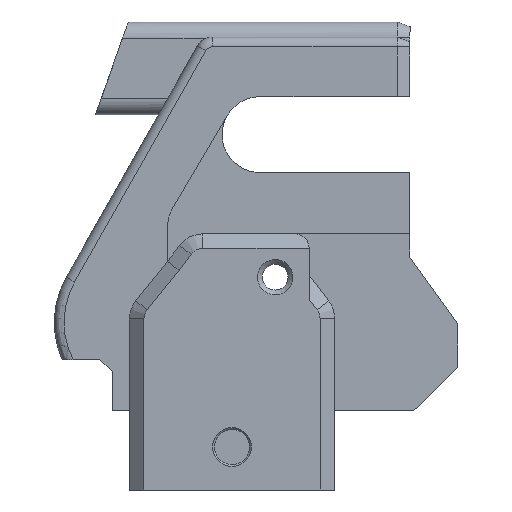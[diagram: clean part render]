
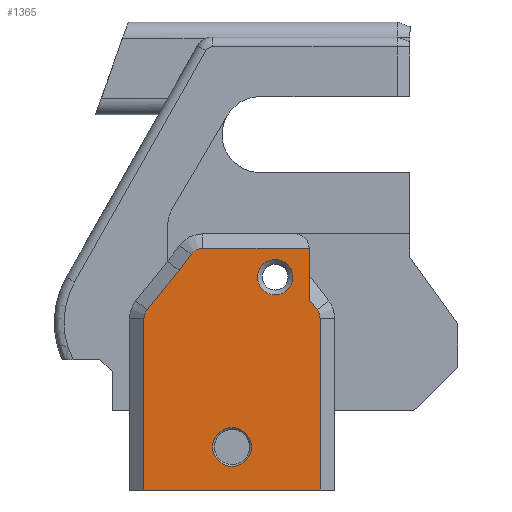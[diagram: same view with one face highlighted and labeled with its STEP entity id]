
A CAD part, left-side view. The second image highlights one B-rep face of the part: STEP entity #1365.
In plain terms, the highlighted planar face has unit normal (-1, 0, 0).
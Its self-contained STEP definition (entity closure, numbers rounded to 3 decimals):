
#660=CARTESIAN_POINT('',(-13.,246.445,52.473));
#661=VERTEX_POINT('',#660);
#668=CARTESIAN_POINT('',(-13.,246.445,47.255));
#669=VERTEX_POINT('',#668);
#670=CARTESIAN_POINT('',(-13.,246.445,52.473));
#671=DIRECTION('',(0.,0.,-1.));
#672=VECTOR('',#671,5.217);
#673=LINE('',#670,#672);
#674=EDGE_CURVE('',#661,#669,#673,.T.);
#974=CARTESIAN_POINT('',(-13.,263.448,27.616));
#975=VERTEX_POINT('',#974);
#992=CARTESIAN_POINT('',(-13.,245.326,27.616));
#993=VERTEX_POINT('',#992);
#1000=CARTESIAN_POINT('',(-13.,263.448,27.616));
#1001=DIRECTION('',(0.,-1.,-0.));
#1002=VECTOR('',#1001,18.122);
#1003=LINE('',#1000,#1002);
#1004=EDGE_CURVE('',#975,#993,#1003,.T.);
#1263=CARTESIAN_POINT('',(-13.,0.,0.));
#1264=DIRECTION('',(-1.,0.,0.));
#1265=DIRECTION('',(0.,1.,0.));
#1266=AXIS2_PLACEMENT_3D('',#1263,#1264,#1265);
#1267=PLANE('',#1266);
#1268=CARTESIAN_POINT('',(-13.,254.387,34.04));
#1269=VERTEX_POINT('',#1268);
#1270=CARTESIAN_POINT('',(-13.,254.387,32.04));
#1271=DIRECTION('',(-1.,0.,0.));
#1272=DIRECTION('',(0.,0.,1.));
#1273=AXIS2_PLACEMENT_3D('',#1270,#1271,#1272);
#1274=CIRCLE('',#1273,2.);
#1275=EDGE_CURVE('',#1269,#1269,#1274,.T.);
#1276=ORIENTED_EDGE('',*,*,#1275,.F.);
#1277=EDGE_LOOP('',(#1276));
#1278=FACE_BOUND('',#1277,.T.);
#1279=CARTESIAN_POINT('',(-13.,249.948,51.34));
#1280=VERTEX_POINT('',#1279);
#1281=CARTESIAN_POINT('',(-13.,249.948,49.515));
#1282=DIRECTION('',(1.,-0.,-0.));
#1283=DIRECTION('',(0.,0.,1.));
#1284=AXIS2_PLACEMENT_3D('',#1281,#1282,#1283);
#1285=CIRCLE('',#1284,1.825);
#1286=EDGE_CURVE('',#1280,#1280,#1285,.T.);
#1287=ORIENTED_EDGE('',*,*,#1286,.T.);
#1288=EDGE_LOOP('',(#1287));
#1289=FACE_BOUND('',#1288,.T.);
#1290=CARTESIAN_POINT('',(-13.,245.628,46.171));
#1291=VERTEX_POINT('',#1290);
#1292=CARTESIAN_POINT('',(-13.,245.628,46.171));
#1293=DIRECTION('',(0.,0.602,0.799));
#1294=VECTOR('',#1293,1.358);
#1295=LINE('',#1292,#1294);
#1296=EDGE_CURVE('',#1291,#669,#1295,.T.);
#1297=ORIENTED_EDGE('',*,*,#1296,.T.);
#1298=ORIENTED_EDGE('',*,*,#674,.F.);
#1299=CARTESIAN_POINT('',(-13.,257.395,52.473));
#1300=VERTEX_POINT('',#1299);
#1301=CARTESIAN_POINT('',(-13.,246.445,52.473));
#1302=DIRECTION('',(0.,1.,0.));
#1303=VECTOR('',#1302,10.95);
#1304=LINE('',#1301,#1303);
#1305=EDGE_CURVE('',#661,#1300,#1304,.T.);
#1306=ORIENTED_EDGE('',*,*,#1305,.T.);
#1307=CARTESIAN_POINT('',(-13.,258.592,51.876));
#1308=VERTEX_POINT('',#1307);
#1309=CARTESIAN_POINT('',(-13.,257.395,50.973));
#1310=DIRECTION('',(-1.,0.,0.));
#1311=DIRECTION('',(0.,0.,1.));
#1312=AXIS2_PLACEMENT_3D('',#1309,#1310,#1311);
#1313=CIRCLE('',#1312,1.5);
#1314=EDGE_CURVE('',#1300,#1308,#1313,.T.);
#1315=ORIENTED_EDGE('',*,*,#1314,.T.);
#1316=CARTESIAN_POINT('',(-13.,259.836,50.225));
#1317=VERTEX_POINT('',#1316);
#1318=CARTESIAN_POINT('',(-13.,258.592,51.876));
#1319=DIRECTION('',(0.,0.602,-0.799));
#1320=VECTOR('',#1319,2.067);
#1321=LINE('',#1318,#1320);
#1322=EDGE_CURVE('',#1308,#1317,#1321,.T.);
#1323=ORIENTED_EDGE('',*,*,#1322,.T.);
#1324=CARTESIAN_POINT('',(-13.,263.116,46.155));
#1325=VERTEX_POINT('',#1324);
#1326=CARTESIAN_POINT('',(-13.,259.836,50.225));
#1327=DIRECTION('',(0.,0.627,-0.779));
#1328=VECTOR('',#1327,5.227);
#1329=LINE('',#1326,#1328);
#1330=EDGE_CURVE('',#1317,#1325,#1329,.T.);
#1331=ORIENTED_EDGE('',*,*,#1330,.T.);
#1332=CARTESIAN_POINT('',(-13.,263.448,45.214));
#1333=VERTEX_POINT('',#1332);
#1334=CARTESIAN_POINT('',(-13.,261.948,45.214));
#1335=DIRECTION('',(-1.,0.,0.));
#1336=DIRECTION('',(0.,0.,1.));
#1337=AXIS2_PLACEMENT_3D('',#1334,#1335,#1336);
#1338=CIRCLE('',#1337,1.5);
#1339=EDGE_CURVE('',#1325,#1333,#1338,.T.);
#1340=ORIENTED_EDGE('',*,*,#1339,.T.);
#1341=CARTESIAN_POINT('',(-13.,263.448,45.214));
#1342=DIRECTION('',(0.,0.,-1.));
#1343=VECTOR('',#1342,17.598);
#1344=LINE('',#1341,#1343);
#1345=EDGE_CURVE('',#1333,#975,#1344,.T.);
#1346=ORIENTED_EDGE('',*,*,#1345,.T.);
#1347=ORIENTED_EDGE('',*,*,#1004,.T.);
#1348=CARTESIAN_POINT('',(-13.,245.326,45.268));
#1349=VERTEX_POINT('',#1348);
#1350=CARTESIAN_POINT('',(-13.,245.326,27.616));
#1351=DIRECTION('',(0.,0.,1.));
#1352=VECTOR('',#1351,17.653);
#1353=LINE('',#1350,#1352);
#1354=EDGE_CURVE('',#993,#1349,#1353,.T.);
#1355=ORIENTED_EDGE('',*,*,#1354,.T.);
#1356=CARTESIAN_POINT('',(-13.,246.826,45.268));
#1357=DIRECTION('',(-1.,0.,0.));
#1358=DIRECTION('',(0.,0.,1.));
#1359=AXIS2_PLACEMENT_3D('',#1356,#1357,#1358);
#1360=CIRCLE('',#1359,1.5);
#1361=EDGE_CURVE('',#1349,#1291,#1360,.T.);
#1362=ORIENTED_EDGE('',*,*,#1361,.T.);
#1363=EDGE_LOOP('',(#1297,#1298,#1306,#1315,#1323,#1331,#1340,#1346,#1347,#1355,#1362));
#1364=FACE_BOUND('',#1363,.T.);
#1365=ADVANCED_FACE('',(#1278,#1289,#1364),#1267,.T.);
